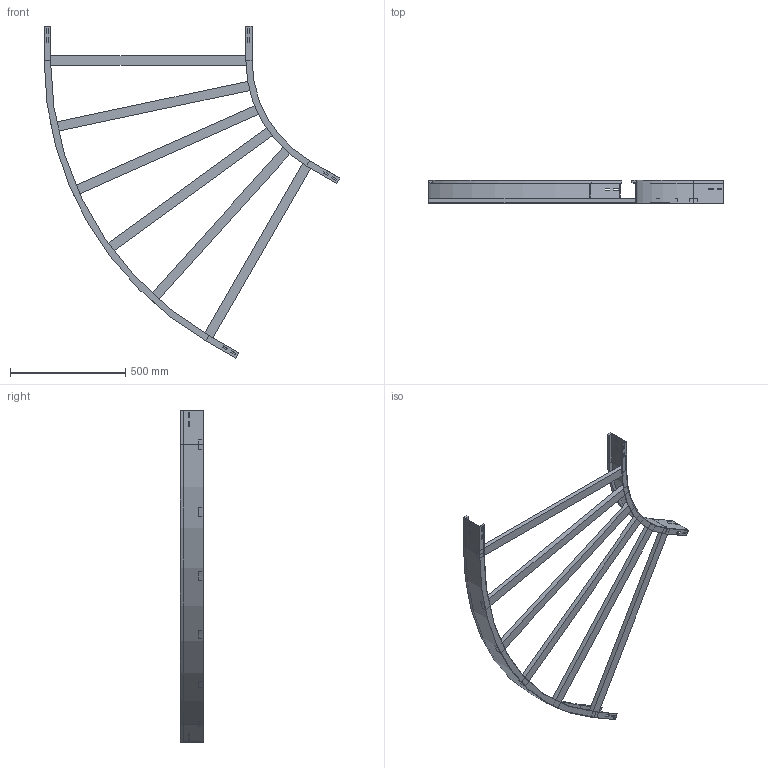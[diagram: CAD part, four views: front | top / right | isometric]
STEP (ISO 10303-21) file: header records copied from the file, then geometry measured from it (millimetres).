
FILE_DESCRIPTION (( 'STEP AP214' ), '1' );
FILE_NAME ('13B5D900.step', '2025-02-21T15:17:30', ( '' ), ( '' ), 'SwSTEP 2.0', 'SolidWorks 2023', '' );
FILE_SCHEMA (( 'AUTOMOTIVE_DESIGN' ));
Length unit declared in the file: millimetre
Products named in the file (4): A2_LONGH.INTERNO 60°_H100_R500; A2_LONGH.ESTERNO 60°_H100_R500+900; 13B5D900; TRAVERSINO_900
Assembly tree (8 placements, depth 2):
  13B5D900
    A2_LONGH.INTERNO 60°_H100_R500
    A2_LONGH.ESTERNO 60°_H100_R500+900
    TRAVERSINO_900  x6
Bounding box: 1279.9 x 100 x 1437.44 mm (x, y, z)
Volume: 5494268.5 mm3; surface area: 1399559.1 mm2
Topology: 8 solids, 8 shells, 152 faces, 376 edges, 240 vertices
Faces by surface type: plane 144, cylinder 8
Entity records: 3845 total; most frequent: CARTESIAN_POINT 649, ORIENTED_EDGE 632, DIRECTION 598, EDGE_CURVE 316, LINE 300, VECTOR 300, VERTEX_POINT 200, EDGE_LOOP 154
